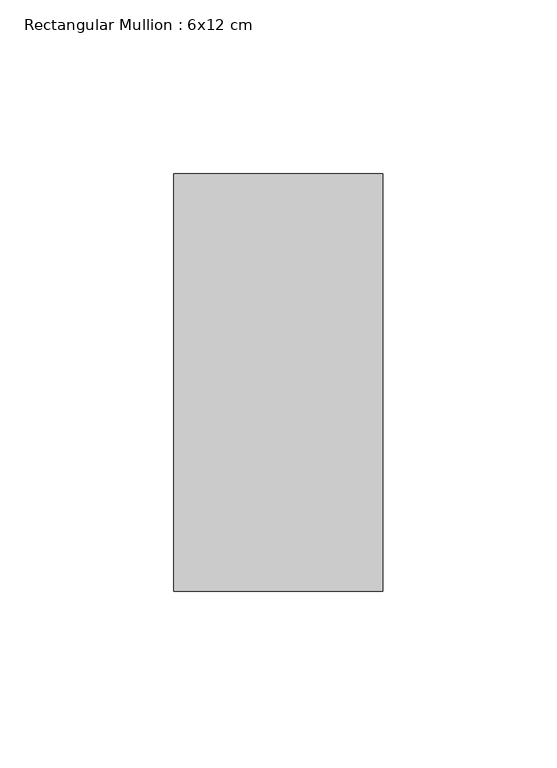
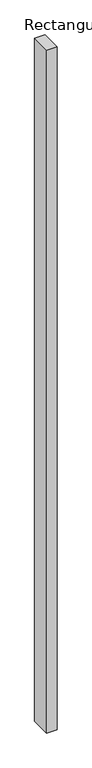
"""IFC4 building model written with IfcOpenShell, lengths in millimetres: member geometry, Rectangular Mullion : 6x12 cm."""

from ifc_helpers import new_model, si_unit, frame, origin, place, context, project, spatial, polyline, outline, extrude, source, transform, mapped, element, save


def rectangular_mullion_6x12_cm_06a622d2(model_context):
    return source(origin(), model_context, "Body", "SweptSolid", [
        extrude(outline(polyline([(30.0, 205.0), (30.0, 85.0), (-30.0, 85.0), (-30.0, 205.0), (30.0, 205.0)])), frame((0.0, 0.0, -4202.598156), z_axis=(0.0, 0.0, 1.0), x_axis=(1.0, 0.0, 0.0)), (0.0, 0.0, 1.0), 4202.598156),
    ])


if __name__ == "__main__":
    model = new_model("IFC4")
    model_context = context("Model", 3, world=origin())
    ifc_project = project(units=[si_unit("LENGTHUNIT", "METRE", prefix="MILLI")], contexts=[model_context])
    site = spatial("IfcSite", under=ifc_project)
    building = spatial("IfcBuilding", under=site)
    placement = place(None, origin())
    rectangular_mullion_6x12_cm_shape = rectangular_mullion_6x12_cm_06a622d2(model_context)
    element("IfcMember", 1, ObjectType="Rectangular Mullion : 6x12 cm", at=placement, inside=building, context=model_context, shape_type="MappedRepresentation", body=[
        mapped(rectangular_mullion_6x12_cm_shape, transform((0.0, 0.0, 0.0), x_axis=(1.0, 0.0, 0.0), y_axis=(0.0, 1.0, 0.0), z_axis=(0.0, 0.0, 1.0))),
    ])
    save(model, "model.ifc")
